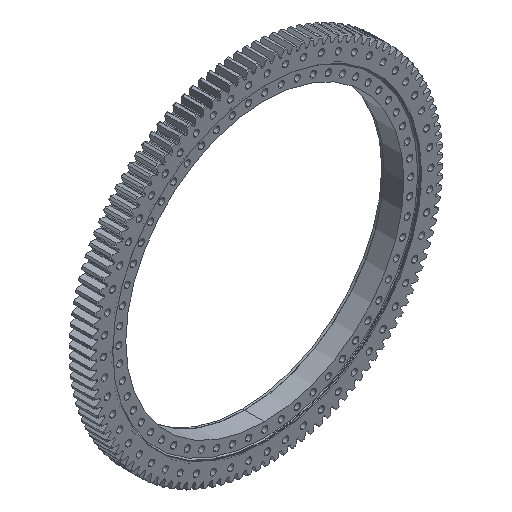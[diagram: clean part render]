
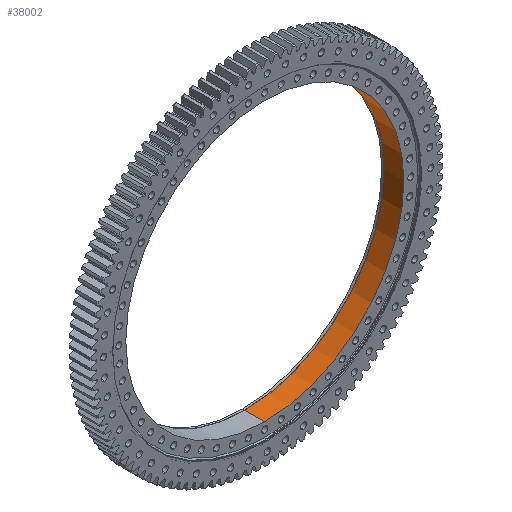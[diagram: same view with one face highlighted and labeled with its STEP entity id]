
A CAD part, isometric view. The second image highlights one B-rep face of the part: STEP entity #38002.
In plain terms, the highlighted cylindrical face has radius 589.5 mm (diameter 1179 mm), a partial arc.
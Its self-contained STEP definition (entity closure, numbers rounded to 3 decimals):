
#305 = LINE ( 'NONE', #10009, #8186 ) ;
#356 = FACE_OUTER_BOUND ( 'NONE', #26768, .T. ) ;
#924 = CARTESIAN_POINT ( 'NONE',  ( 0., -100.145, 589.5 ) ) ;
#1083 = CARTESIAN_POINT ( 'NONE',  ( 0., 0., 0. ) ) ;
#1713 = DIRECTION ( 'NONE',  ( 0., -1., 0. ) ) ;
#2263 = VERTEX_POINT ( 'NONE', #924 ) ;
#2660 = DIRECTION ( 'NONE',  ( 0., 0., -1. ) ) ;
#2957 = ORIENTED_EDGE ( 'NONE', *, *, #37410, .F. ) ;
#3264 = CARTESIAN_POINT ( 'NONE',  ( 0., -100.145, -589.5 ) ) ;
#5069 = LINE ( 'NONE', #11617, #33674 ) ;
#5369 = EDGE_CURVE ( 'NONE', #12301, #8419, #5069, .T. ) ;
#6715 = CIRCLE ( 'NONE', #28919, 589.5 ) ;
#6906 = ORIENTED_EDGE ( 'NONE', *, *, #22625, .T. ) ;
#8186 = VECTOR ( 'NONE', #9811, 1000. ) ;
#8206 = CARTESIAN_POINT ( 'NONE',  ( 0., -100.145, 0. ) ) ;
#8419 = VERTEX_POINT ( 'NONE', #3264 ) ;
#8735 = CARTESIAN_POINT ( 'NONE',  ( 0., -15.145, 0. ) ) ;
#9811 = DIRECTION ( 'NONE',  ( 0., -1., 0. ) ) ;
#10009 = CARTESIAN_POINT ( 'NONE',  ( 0., 0., 589.5 ) ) ;
#10286 = AXIS2_PLACEMENT_3D ( 'NONE', #8206, #17356, #2660 ) ;
#10775 = DIRECTION ( 'NONE',  ( 0., 0., -1. ) ) ;
#11617 = CARTESIAN_POINT ( 'NONE',  ( 0., 0., -589.5 ) ) ;
#12291 = DIRECTION ( 'NONE',  ( 0., 0., -1. ) ) ;
#12301 = VERTEX_POINT ( 'NONE', #18073 ) ;
#17356 = DIRECTION ( 'NONE',  ( 0., -1., 0. ) ) ;
#18073 = CARTESIAN_POINT ( 'NONE',  ( 0., -15.145, -589.5 ) ) ;
#22625 = EDGE_CURVE ( 'NONE', #8419, #2263, #29588, .T. ) ;
#23835 = DIRECTION ( 'NONE',  ( 0., -1., 0. ) ) ;
#23978 = ORIENTED_EDGE ( 'NONE', *, *, #31527, .F. ) ;
#25406 = CARTESIAN_POINT ( 'NONE',  ( 0., -15.145, 589.5 ) ) ;
#26768 = EDGE_LOOP ( 'NONE', ( #23978, #2957, #31052, #6906 ) ) ;
#28919 = AXIS2_PLACEMENT_3D ( 'NONE', #8735, #23835, #12291 ) ;
#29588 = CIRCLE ( 'NONE', #10286, 589.5 ) ;
#31052 = ORIENTED_EDGE ( 'NONE', *, *, #5369, .T. ) ;
#31527 = EDGE_CURVE ( 'NONE', #38742, #2263, #305, .T. ) ;
#33674 = VECTOR ( 'NONE', #1713, 1000. ) ;
#34038 = AXIS2_PLACEMENT_3D ( 'NONE', #1083, #38425, #10775 ) ;
#36709 = CYLINDRICAL_SURFACE ( 'NONE', #34038, 589.5 ) ;
#37410 = EDGE_CURVE ( 'NONE', #12301, #38742, #6715, .T. ) ;
#38002 = ADVANCED_FACE ( 'NONE', ( #356 ), #36709, .F. ) ;
#38425 = DIRECTION ( 'NONE',  ( 0., -1., 0. ) ) ;
#38742 = VERTEX_POINT ( 'NONE', #25406 ) ;
